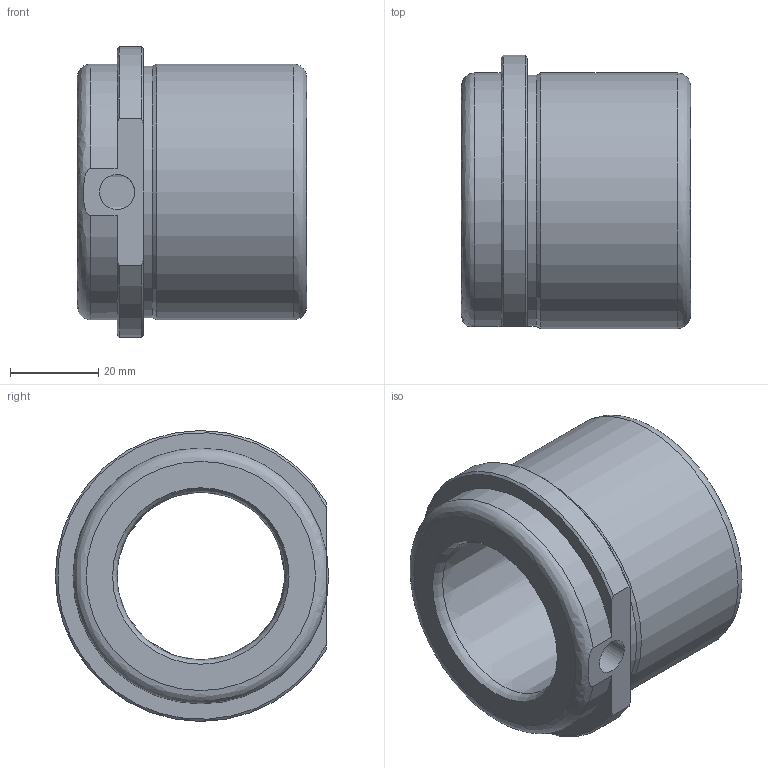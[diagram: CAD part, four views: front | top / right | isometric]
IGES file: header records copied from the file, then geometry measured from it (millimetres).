
Global section: file name: BEBA38-5.ipt; native system: Autodesk Inventor 2021; preprocessor: unknown; author: SM; date: 20220119.054311; units: millimetre
Bounding box: 52 x 62 x 66 mm (x, y, z)
Volume: 80850.2 mm3; surface area: 32668.2 mm2
Topology: 2 solids, 2 shells, 21 faces, 65 edges, 43 vertices
Faces by surface type: revolution 8, cylinder 5, plane 5, cone 3
Full cylindrical faces by diameter (mm): 40 x1, 57 x1, 58 x1
